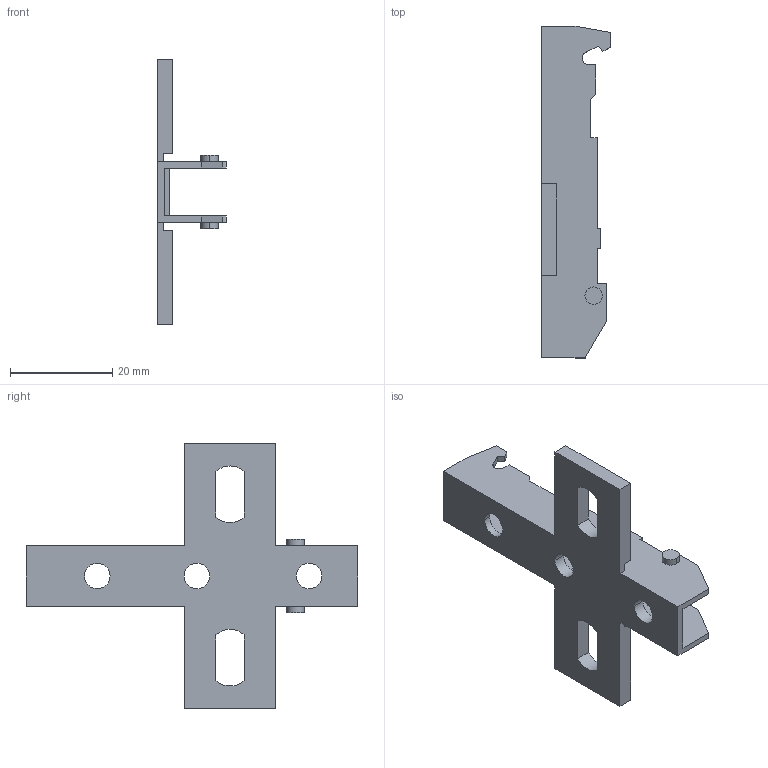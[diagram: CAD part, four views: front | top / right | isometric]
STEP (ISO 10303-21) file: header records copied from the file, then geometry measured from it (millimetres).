
FILE_DESCRIPTION (( 'STEP AP214' ), '1' );
FILE_NAME ('Eco Kreuzmontageplatte LR37_32_Euro_H03.step', '2010-11-18T10:05:59', ( 'grass' ), ( '' ), 'SwSTEP 2.0', 'SolidWorks 2010', '' );
FILE_SCHEMA (( 'AUTOMOTIVE_DESIGN' ));
Length unit declared in the file: millimetre
Products named in the file (1): Eco Kreuzmontageplatte LR37_32_Euro_H03
Bounding box: 13.5 x 65 x 52 mm (x, y, z)
Volume: 4482.4 mm3; surface area: 6020.2 mm2
Topology: 1 solids, 1 shells, 84 faces, 240 edges, 160 vertices
Faces by surface type: plane 66, cylinder 18
Entity records: 2774 total; most frequent: CARTESIAN_POINT 485, ORIENTED_EDGE 480, DIRECTION 446, EDGE_CURVE 240, VECTOR 204, LINE 204, VERTEX_POINT 160, AXIS2_PLACEMENT_3D 121
